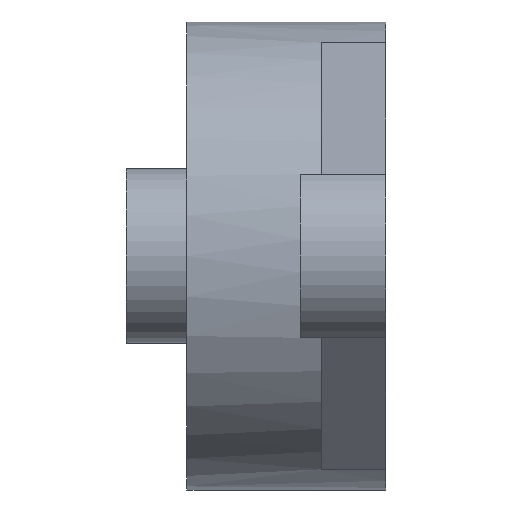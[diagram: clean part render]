
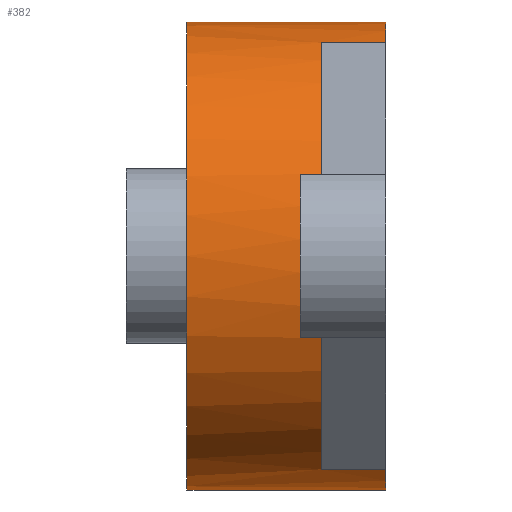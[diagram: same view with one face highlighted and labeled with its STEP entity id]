
A CAD part, front view. The second image highlights one B-rep face of the part: STEP entity #382.
In plain terms, the highlighted cylindrical face has radius 30 mm (diameter 60 mm), a partial arc.
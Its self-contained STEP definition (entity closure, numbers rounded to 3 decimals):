
#59 = EDGE_CURVE ( 'NONE', #91, #83, #416, .T. ) ;
#64 = VERTEX_POINT ( 'NONE', #450 ) ;
#79 = VERTEX_POINT ( 'NONE', #453 ) ;
#83 = VERTEX_POINT ( 'NONE', #446 ) ;
#85 = VERTEX_POINT ( 'NONE', #458 ) ;
#91 = VERTEX_POINT ( 'NONE', #530 ) ;
#118 = VERTEX_POINT ( 'NONE', #490 ) ;
#121 = VERTEX_POINT ( 'NONE', #657 ) ;
#139 = EDGE_CURVE ( 'NONE', #118, #411, #588, .T. ) ;
#174 = EDGE_CURVE ( 'NONE', #85, #118, #615, .T. ) ;
#185 = EDGE_CURVE ( 'NONE', #191, #79, #544, .T. ) ;
#191 = VERTEX_POINT ( 'NONE', #854 ) ;
#200 = EDGE_CURVE ( 'NONE', #121, #64, #887, .T. ) ;
#212 = EDGE_CURVE ( 'NONE', #79, #85, #725, .T. ) ;
#214 = ORIENTED_EDGE ( 'NONE', *, *, #268, .T. ) ;
#215 = ORIENTED_EDGE ( 'NONE', *, *, #139, .T. ) ;
#220 = ORIENTED_EDGE ( 'NONE', *, *, #223, .F. ) ;
#221 = ORIENTED_EDGE ( 'NONE', *, *, #319, .T. ) ;
#223 = EDGE_CURVE ( 'NONE', #121, #284, #726, .T. ) ;
#225 = ORIENTED_EDGE ( 'NONE', *, *, #346, .F. ) ;
#227 = EDGE_CURVE ( 'NONE', #191, #228, #733, .T. ) ;
#228 = VERTEX_POINT ( 'NONE', #888 ) ;
#229 = VERTEX_POINT ( 'NONE', #732 ) ;
#238 = VERTEX_POINT ( 'NONE', #765 ) ;
#239 = ORIENTED_EDGE ( 'NONE', *, *, #227, .F. ) ;
#240 = ORIENTED_EDGE ( 'NONE', *, *, #375, .T. ) ;
#268 = EDGE_CURVE ( 'NONE', #229, #228, #794, .T. ) ;
#271 = EDGE_CURVE ( 'NONE', #284, #378, #786, .T. ) ;
#277 = ORIENTED_EDGE ( 'NONE', *, *, #377, .T. ) ;
#280 = ORIENTED_EDGE ( 'NONE', *, *, #185, .T. ) ;
#284 = VERTEX_POINT ( 'NONE', #856 ) ;
#285 = ORIENTED_EDGE ( 'NONE', *, *, #200, .T. ) ;
#318 = ORIENTED_EDGE ( 'NONE', *, *, #271, .F. ) ;
#319 = EDGE_CURVE ( 'NONE', #238, #378, #1057, .T. ) ;
#329 = EDGE_LOOP ( 'NONE', ( #333, #225, #214, #239, #280, #347, #379, #215, #240, #221, #318, #220, #285, #277 ) ) ;
#333 = ORIENTED_EDGE ( 'NONE', *, *, #59, .F. ) ;
#346 = EDGE_CURVE ( 'NONE', #229, #91, #928, .T. ) ;
#347 = ORIENTED_EDGE ( 'NONE', *, *, #212, .T. ) ;
#375 = EDGE_CURVE ( 'NONE', #411, #238, #983, .T. ) ;
#377 = EDGE_CURVE ( 'NONE', #64, #83, #974, .T. ) ;
#378 = VERTEX_POINT ( 'NONE', #978 ) ;
#379 = ORIENTED_EDGE ( 'NONE', *, *, #174, .T. ) ;
#382 = ADVANCED_FACE ( 'NONE', ( #1015 ), #981, .T. ) ;
#411 = VERTEX_POINT ( 'NONE', #999 ) ;
#416 = LINE ( 'NONE', #427, #420 ) ;
#418 = DIRECTION ( 'NONE',  ( -1., 0., 0. ) ) ;
#420 = VECTOR ( 'NONE', #418, 1000. ) ;
#427 = CARTESIAN_POINT ( 'NONE',  ( -25.5, 0., -30. ) ) ;
#446 = CARTESIAN_POINT ( 'NONE',  ( -25.5, 0., -30. ) ) ;
#450 = CARTESIAN_POINT ( 'NONE',  ( -25.5, 0., 30. ) ) ;
#453 = CARTESIAN_POINT ( 'NONE',  ( -8.25, -28.109, -10.483 ) ) ;
#458 = CARTESIAN_POINT ( 'NONE',  ( -11., -28.109, -10.483 ) ) ;
#490 = CARTESIAN_POINT ( 'NONE',  ( -11., -28.109, 10.483 ) ) ;
#516 = DIRECTION ( 'NONE',  ( 0., 0., 1. ) ) ;
#517 = DIRECTION ( 'NONE',  ( -1., 0., 0. ) ) ;
#519 = AXIS2_PLACEMENT_3D ( 'NONE', #546, #517, #516 ) ;
#530 = CARTESIAN_POINT ( 'NONE',  ( 0., 0., -30. ) ) ;
#544 = CIRCLE ( 'NONE', #519, 30. ) ;
#546 = CARTESIAN_POINT ( 'NONE',  ( -8.25, 0., 0. ) ) ;
#553 = DIRECTION ( 'NONE',  ( 0., 0., 1. ) ) ;
#554 = DIRECTION ( 'NONE',  ( -1., 0., 0. ) ) ;
#555 = CARTESIAN_POINT ( 'NONE',  ( -11., 0., 0. ) ) ;
#585 = VECTOR ( 'NONE', #586, 1000. ) ;
#586 = DIRECTION ( 'NONE',  ( 1., 0., 0. ) ) ;
#587 = CARTESIAN_POINT ( 'NONE',  ( -12.75, -28.109, 10.483 ) ) ;
#588 = LINE ( 'NONE', #587, #585 ) ;
#598 = AXIS2_PLACEMENT_3D ( 'NONE', #555, #554, #553 ) ;
#615 = CIRCLE ( 'NONE', #598, 30. ) ;
#657 = CARTESIAN_POINT ( 'NONE',  ( 0., 0., 30. ) ) ;
#722 = DIRECTION ( 'NONE',  ( -1., 0., 0. ) ) ;
#723 = VECTOR ( 'NONE', #722, 1000. ) ;
#724 = CARTESIAN_POINT ( 'NONE',  ( -12.75, -28.109, -10.483 ) ) ;
#725 = LINE ( 'NONE', #724, #723 ) ;
#726 = CIRCLE ( 'NONE', #728, 30. ) ;
#728 = AXIS2_PLACEMENT_3D ( 'NONE', #897, #895, #894 ) ;
#732 = CARTESIAN_POINT ( 'NONE',  ( 0., -12.333, -27.348 ) ) ;
#733 = LINE ( 'NONE', #890, #769 ) ;
#765 = CARTESIAN_POINT ( 'NONE',  ( -8.25, -12.337, 27.346 ) ) ;
#769 = VECTOR ( 'NONE', #889, 1000. ) ;
#778 = DIRECTION ( 'NONE',  ( -1., 0., 0. ) ) ;
#779 = VECTOR ( 'NONE', #778, 1000. ) ;
#782 = DIRECTION ( 'NONE',  ( -1., 0., 0. ) ) ;
#783 = VECTOR ( 'NONE', #782, 1000. ) ;
#785 = CARTESIAN_POINT ( 'NONE',  ( -8.25, -12.333, 27.348 ) ) ;
#786 = LINE ( 'NONE', #785, #779 ) ;
#790 = CARTESIAN_POINT ( 'NONE',  ( -12.75, -12.333, -27.348 ) ) ;
#794 = LINE ( 'NONE', #790, #783 ) ;
#854 = CARTESIAN_POINT ( 'NONE',  ( -8.25, -12.337, -27.346 ) ) ;
#856 = CARTESIAN_POINT ( 'NONE',  ( 0., -12.333, 27.348 ) ) ;
#882 = DIRECTION ( 'NONE',  ( -1., 0., 0. ) ) ;
#883 = VECTOR ( 'NONE', #882, 1000. ) ;
#886 = CARTESIAN_POINT ( 'NONE',  ( -25.5, 0., 30. ) ) ;
#887 = LINE ( 'NONE', #886, #883 ) ;
#888 = CARTESIAN_POINT ( 'NONE',  ( -8.25, -12.333, -27.348 ) ) ;
#889 = DIRECTION ( 'NONE',  ( 0., 0.912, -0.411 ) ) ;
#890 = CARTESIAN_POINT ( 'NONE',  ( -8.25, -31.031, -18.915 ) ) ;
#894 = DIRECTION ( 'NONE',  ( 0., 0., 1. ) ) ;
#895 = DIRECTION ( 'NONE',  ( 1., 0., 0. ) ) ;
#897 = CARTESIAN_POINT ( 'NONE',  ( 0., 0., 0. ) ) ;
#924 = DIRECTION ( 'NONE',  ( 0., 0., 1. ) ) ;
#925 = DIRECTION ( 'NONE',  ( 1., 0., 0. ) ) ;
#926 = CARTESIAN_POINT ( 'NONE',  ( 0., 0., 0. ) ) ;
#927 = AXIS2_PLACEMENT_3D ( 'NONE', #926, #925, #924 ) ;
#928 = CIRCLE ( 'NONE', #927, 30. ) ;
#965 = AXIS2_PLACEMENT_3D ( 'NONE', #1012, #1011, #1004 ) ;
#968 = DIRECTION ( 'NONE',  ( 0., 0., 1. ) ) ;
#969 = DIRECTION ( 'NONE',  ( -1., 0., 0. ) ) ;
#970 = CARTESIAN_POINT ( 'NONE',  ( -8.25, 0., 0. ) ) ;
#971 = AXIS2_PLACEMENT_3D ( 'NONE', #970, #969, #968 ) ;
#973 = AXIS2_PLACEMENT_3D ( 'NONE', #977, #1014, #1013 ) ;
#974 = CIRCLE ( 'NONE', #973, 30. ) ;
#977 = CARTESIAN_POINT ( 'NONE',  ( -25.5, 0., 0. ) ) ;
#978 = CARTESIAN_POINT ( 'NONE',  ( -8.25, -12.333, 27.348 ) ) ;
#981 = CYLINDRICAL_SURFACE ( 'NONE', #965, 30. ) ;
#983 = CIRCLE ( 'NONE', #971, 30. ) ;
#999 = CARTESIAN_POINT ( 'NONE',  ( -8.25, -28.109, 10.483 ) ) ;
#1004 = DIRECTION ( 'NONE',  ( 0., 0., 1. ) ) ;
#1011 = DIRECTION ( 'NONE',  ( -1., 0., 0. ) ) ;
#1012 = CARTESIAN_POINT ( 'NONE',  ( -25.5, 0., 0. ) ) ;
#1013 = DIRECTION ( 'NONE',  ( 0., 0., 1. ) ) ;
#1014 = DIRECTION ( 'NONE',  ( 1., 0., 0. ) ) ;
#1015 = FACE_OUTER_BOUND ( 'NONE', #329, .T. ) ;
#1054 = DIRECTION ( 'NONE',  ( -1., 0., 0. ) ) ;
#1055 = CARTESIAN_POINT ( 'NONE',  ( -8.25, 0., 0. ) ) ;
#1056 = AXIS2_PLACEMENT_3D ( 'NONE', #1055, #1054, #1061 ) ;
#1057 = CIRCLE ( 'NONE', #1056, 30. ) ;
#1061 = DIRECTION ( 'NONE',  ( 0., 1., 0. ) ) ;
